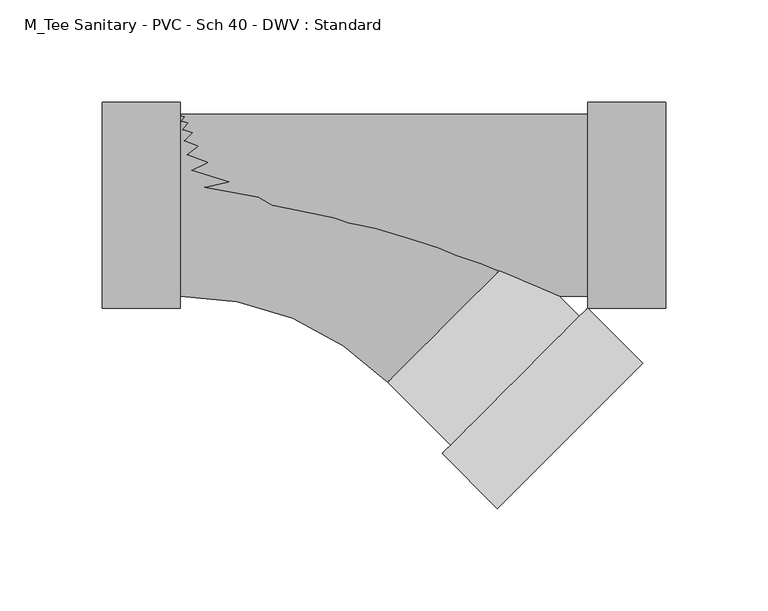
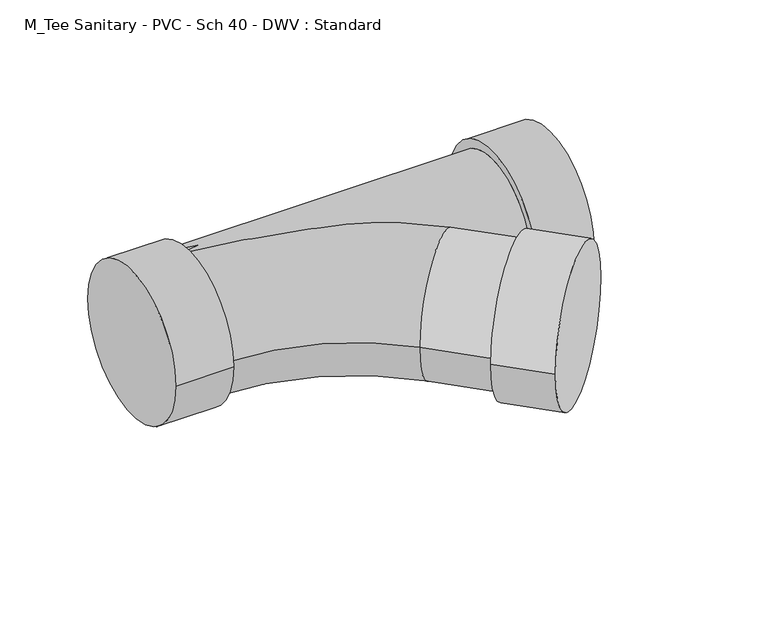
"""IFC4 building model written with IfcOpenShell, lengths in millimetres: pipe fitting geometry, M_Tee Sanitary - PVC - Sch 40 - DWV : Standard."""

import ifcopenshell
import ifcopenshell.guid

model = None  # the IFC model being written
_history = None  # IfcOwnerHistory: only IFC2X3 demands one
_inside = {}  # id of a spatial element -> (the spatial element, [elements in it])
_under = {}  # id of a project, library or spatial element -> (it, [spatial elements below it])
_declared = {}  # id of a project -> (the project, [libraries it declares])
_typed = {}  # id of a type object -> (the type object, [elements of that type])
_made_of = {}  # id of a material, layer set ... -> (it, [elements and type objects made of it])


def new_model(schema):
    """Start an empty IFC model of exactly this schema.

    Asked for "IFC4X3", IfcOpenShell would pick the latest addendum, in which some entities
    have other attributes; the version numbers below select the first issue.
    IFC2X3 requires an IfcOwnerHistory on every rooted entity: one is made here for all.
    """
    global model, _history
    if schema == "IFC4X3":
        model = ifcopenshell.file(schema_version=(4, 3, 0, 0))
    else:
        model = ifcopenshell.file(schema=schema)
    _inside.clear()
    _under.clear()
    _declared.clear()
    _typed.clear()
    _made_of.clear()
    _history = None
    if model.schema == "IFC2X3":
        org = make("IfcOrganization", Name="unknown")
        user = make(
            "IfcPersonAndOrganization",
            ThePerson=make("IfcPerson", FamilyName="unknown"),
            TheOrganization=org,
        )
        app = make(
            "IfcApplication",
            ApplicationDeveloper=org,
            Version="unknown",
            ApplicationFullName="unknown",
            ApplicationIdentifier="unknown",
        )
        _history = make(
            "IfcOwnerHistory",
            OwningUser=user,
            OwningApplication=app,
            ChangeAction="ADDED",
            CreationDate=0,
        )
    return model


def make(cls, **values):
    """One entity of the class cls with the attributes given. An attribute that is None is left unset."""
    return model.create_entity(
        cls, **{name: value for name, value in values.items() if value is not None}
    )


def rooted(cls, **values):
    """An entity with a GlobalId (a new one), such as an element, a storey or a relation."""
    return make(cls, GlobalId=ifcopenshell.guid.new(), OwnerHistory=_history, **values)


def si_unit(unit_type, name, prefix=None):
    """IfcSIUnit, for example si_unit("LENGTHUNIT", "METRE", prefix="MILLI")."""
    return make("IfcSIUnit", UnitType=unit_type, Prefix=prefix, Name=name)


def assignment(units):
    """IfcUnitAssignment: the units of a project."""
    return None if units is None else make("IfcUnitAssignment", Units=units)


def point(xyz):
    """IfcCartesianPoint."""
    return None if xyz is None else make("IfcCartesianPoint", Coordinates=xyz)


def direction(xyz):
    """IfcDirection."""
    return None if xyz is None else make("IfcDirection", DirectionRatios=xyz)


def frame(location, z_axis=None, x_axis=None):
    """IfcAxis2Placement3D, a coordinate frame: its origin and axes. An axis left out is left unset."""
    return make(
        "IfcAxis2Placement3D",
        Location=point(location),
        Axis=direction(z_axis),
        RefDirection=direction(x_axis),
    )


def origin():
    """The frame at (0, 0, 0) with its axes left unset."""
    return frame((0.0, 0.0, 0.0))


def place(relative_to, where):
    """IfcLocalPlacement: puts the frame where relative to a parent placement (None: the world)."""
    return make(
        "IfcLocalPlacement", PlacementRelTo=relative_to, RelativePlacement=where
    )


def context(
    kind, dimensions, precision=None, world=None, true_north=None, identifier=None
):
    """IfcGeometricRepresentationContext, for example the 3D "Model" context."""
    return make(
        "IfcGeometricRepresentationContext",
        ContextIdentifier=identifier,
        ContextType=kind,
        CoordinateSpaceDimension=dimensions,
        Precision=precision,
        WorldCoordinateSystem=world,
        TrueNorth=true_north,
    )


def project(units=None, contexts=None):
    """IfcProject with its units and contexts."""
    return rooted(
        "IfcProject",
        Name="project",
        RepresentationContexts=contexts,
        UnitsInContext=assignment(units),
    )


def spatial(cls, under=None, at=None, **own):
    """A site, building, storey or space (cls), placed at a placement, below another one or the project."""
    s = rooted(cls, ObjectPlacement=at, **own)
    if under is not None:
        _under.setdefault(under.id(), (under, []))[1].append(s)
    return s


def circle_curve(where, radius):
    """IfcCircle in the frame where."""
    return make("IfcCircle", Position=where, Radius=radius)


def ellipse_curve(where, semi_axis1, semi_axis2):
    """IfcEllipse in the frame where."""
    return make(
        "IfcEllipse", Position=where, SemiAxis1=semi_axis1, SemiAxis2=semi_axis2
    )


def trimmed(basis, trim1, trim2, sense, master):
    """IfcTrimmedCurve: the piece of a basis curve between two trims."""
    return make(
        "IfcTrimmedCurve",
        BasisCurve=basis,
        Trim1=trim1,
        Trim2=trim2,
        SenseAgreement=sense,
        MasterRepresentation=master,
    )


def shape(context_of_items, identifier, shape_type, items):
    """IfcShapeRepresentation: the items that make up one representation, for example the "Body"."""
    return make(
        "IfcShapeRepresentation",
        ContextOfItems=context_of_items,
        RepresentationIdentifier=identifier,
        RepresentationType=shape_type,
        Items=items,
    )


def source(mapping_origin, context_of_items, identifier, shape_type, items):
    """IfcRepresentationMap: a shape defined once, which mapped items show again and again."""
    return make(
        "IfcRepresentationMap",
        MappingOrigin=mapping_origin,
        MappedRepresentation=shape(context_of_items, identifier, shape_type, items),
    )


def transform(
    local_origin,
    x_axis=None,
    y_axis=None,
    z_axis=None,
    scale=None,
    scale2=None,
    scale3=None,
    uniform=True,
):
    """IfcCartesianTransformationOperator3D, or its non-uniform kind. x_axis, y_axis, z_axis: its Axis1, 2, 3."""
    if uniform:
        return make(
            "IfcCartesianTransformationOperator3D",
            Axis1=direction(x_axis),
            Axis2=direction(y_axis),
            LocalOrigin=point(local_origin),
            Scale=scale,
            Axis3=direction(z_axis),
        )
    return make(
        "IfcCartesianTransformationOperator3DnonUniform",
        Axis1=direction(x_axis),
        Axis2=direction(y_axis),
        LocalOrigin=point(local_origin),
        Scale=scale,
        Axis3=direction(z_axis),
        Scale2=scale2,
        Scale3=scale3,
    )


def mapped(mapping_source, mapping_target):
    """IfcMappedItem: shows the shape of a source again, moved by a transform."""
    return make(
        "IfcMappedItem", MappingSource=mapping_source, MappingTarget=mapping_target
    )


def made_of(thing, what):
    """Note that an element or type object is made of a material, layer set ...; save() writes the relation."""
    if what is not None:
        _made_of.setdefault(what.id(), (what, []))[1].append(thing)
    return thing


def element(
    cls,
    number,
    at=None,
    inside=None,
    cuts=None,
    type_object=None,
    material=None,
    context=None,
    identifier="Body",
    shape_type=None,
    held_by="IfcProductDefinitionShape",
    body=None,
    shapes=None,
    **own,
):
    """One element of the class cls, such as IfcWall. Its Tag is "e" and its number.

    at: its placement. inside: the storey or other place that contains it. cuts: it is an
    opening in that element (IfcRelVoidsElement). A single representation is given by context,
    identifier, shape_type and body (its items); several are given by shapes. held_by: the class
    of the entity that holds the representations. save() writes the other relations.
    """
    e = rooted(cls, Tag="e%d" % number, ObjectPlacement=at, **own)
    if body is not None:
        shapes = [shape(context, identifier, shape_type, body)]
    if shapes is not None:
        e.Representation = make(held_by, Representations=shapes)
    if inside is not None:
        _inside.setdefault(inside.id(), (inside, []))[1].append(e)
    if cuts is not None:
        rooted(
            "IfcRelVoidsElement", RelatingBuildingElement=cuts, RelatedOpeningElement=e
        )
    if type_object is not None:
        _typed.setdefault(type_object.id(), (type_object, []))[1].append(e)
    return made_of(e, material)


def aggregate(whole, parts):
    """IfcRelAggregates: a whole, such as a stair, and the parts it consists of."""
    return rooted("IfcRelAggregates", RelatingObject=whole, RelatedObjects=parts)


def save(model, path):
    """Write the relations noted so far, then the file.

    IfcRelAggregates (storeys below a building ...), IfcRelContainedInSpatialStructure (elements
    in a storey), IfcRelDefinesByType, IfcRelAssociatesMaterial and IfcRelDeclares: one each for
    every whole, place, type object, material and project.
    """
    for whole, parts in _under.values():
        aggregate(whole, parts)
    for where, things in _inside.values():
        rooted(
            "IfcRelContainedInSpatialStructure",
            RelatedElements=things,
            RelatingStructure=where,
        )
    for kind, things in _typed.values():
        rooted("IfcRelDefinesByType", RelatedObjects=things, RelatingType=kind)
    for what, things in _made_of.values():
        rooted("IfcRelAssociatesMaterial", RelatedObjects=things, RelatingMaterial=what)
    for by, libraries in _declared.values():
        rooted("IfcRelDeclares", RelatingContext=by, RelatedDefinitions=libraries)
    model.write(path)


def plane_surface(at):
    """IfcPlane: the flat surface through the origin of the frame at, square to its z axis."""
    return make("IfcPlane", Position=at)


def cylinder_surface(at, radius):
    """IfcCylindricalSurface: all points at the distance radius from the z axis of the frame at."""
    return make("IfcCylindricalSurface", Position=at, Radius=radius)


def revolved_surface(curve, axis_point, axis_direction):
    """IfcSurfaceOfRevolution: the curve turned about the line through axis_point along axis_direction."""
    return make(
        "IfcSurfaceOfRevolution",
        SweptCurve=make("IfcArbitraryOpenProfileDef", ProfileType="CURVE", Curve=curve),
        AxisPosition=make("IfcAxis1Placement", Location=point(axis_point), Axis=direction(axis_direction)),
    )


def advanced_brep(points, edges, surfaces, faces):
    """IfcAdvancedBrep: a solid bounded by faces that lie on surfaces and meet in shared edges.

    An edge is (start, end): straight between two places in points (the first is 0);
    or (start, end, curve); or (start, end, curve, False) where it runs against its curve.
    A face is (place in surfaces, loops), or (place, loops, False) where it looks against
    its surface's normal. A loop lists edges by number (the first is 1), with a minus sign
    where the edge is run from its end to its start. The first loop is the outer one.
    """
    corners = [point(p) for p in points]
    vertices = [make("IfcVertexPoint", VertexGeometry=c) for c in corners]
    made = []
    for start, end, *more in edges:
        made.append(
            make(
                "IfcEdgeCurve",
                EdgeStart=vertices[start],
                EdgeEnd=vertices[end],
                EdgeGeometry=more[0] if more else make("IfcPolyline", Points=[corners[start], corners[end]]),
                SameSense=more[1] if len(more) > 1 else True,
            )
        )
    hull = []
    for where, loops, *sense in faces:
        bounds = []
        for j, loop in enumerate(loops):
            ring = [make("IfcOrientedEdge", EdgeElement=made[abs(k) - 1], Orientation=k > 0) for k in loop]
            bounds.append(
                make(
                    "IfcFaceOuterBound" if j == 0 else "IfcFaceBound",
                    Bound=make("IfcEdgeLoop", EdgeList=ring),
                    Orientation=True,
                )
            )
        hull.append(make("IfcAdvancedFace", Bounds=bounds, FaceSurface=surfaces[where], SameSense=sense[0] if sense else True))
    return make("IfcAdvancedBrep", Outer=make("IfcClosedShell", CfsFaces=hull))


def m_tee_sanitary_pvc_sch_40_dwv_standard_97cdccdc(model_context):
    return source(origin(), model_context, "Body", "AdvancedBrep", [
        advanced_brep(
        [(-77.8002, -44.45, 0.0), (-77.8002, 44.45, 0.0), (23.5821526, -86.4439454, 0.0), (86.4439454, -23.5821526, 0.0), (148.2950758, -77.2073684, 0.0), (77.2073684, -148.2950758, 0.0), (121.3543075, -50.2666, 0.0), (50.2666, -121.3543075, 0.0), (117.2413502, -54.3795573, 0.0), (54.3795573, -117.2413502, 0.0)],
        [
            (0, 1, circle_curve(frame((-77.8002, 0.0, 0.0), z_axis=(-1.0, 0.0, 0.0), x_axis=(0.0, 1.0, 0.0)), 44.45)),
            (1, 0, circle_curve(frame((-77.8002, 0.0, 0.0), z_axis=(-1.0, 0.0, 0.0), x_axis=(0.0, 1.0, 0.0)), 44.45)),
            (0, 2, circle_curve(frame((-77.8002, -187.826298, 0.0), z_axis=(0.0, 0.0, -1.0), x_axis=(0.0, 1.0, 0.0)), 143.376298)),
            (2, 3, circle_curve(frame((55.013049, -55.013049, 0.0), z_axis=(-0.7071067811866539, 0.7071067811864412, 0.0), x_axis=(0.7071067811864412, 0.7071067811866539, 0.0)), 44.45)),
            (3, 1, circle_curve(frame((-77.8002, -187.826298, 0.0), z_axis=(0.0, 0.0, 1.0), x_axis=(0.0, 1.0, 0.0)), 232.276298)),
            (3, 2, circle_curve(frame((55.013049, -55.013049, 0.0), z_axis=(-0.7071067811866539, 0.7071067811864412, 0.0), x_axis=(0.7071067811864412, 0.7071067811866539, 0.0)), 44.45)),
            (4, 5, circle_curve(frame((112.7512221, -112.7512221, 0.0), z_axis=(0.707106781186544, -0.7071067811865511, 0.0), x_axis=(-0.7071067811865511, -0.707106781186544, 0.0)), 50.2666)),
            (5, 4, circle_curve(frame((112.7512221, -112.7512221, 0.0), z_axis=(0.707106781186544, -0.7071067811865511, 0.0), x_axis=(-0.7071067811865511, -0.707106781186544, 0.0)), 50.2666)),
            (6, 7, circle_curve(frame((85.8104537, -85.8104537, 0.0), z_axis=(-0.707106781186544, 0.7071067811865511, 0.0), x_axis=(-0.7071067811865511, -0.707106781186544, 0.0)), 50.2666)),
            (7, 6, circle_curve(frame((85.8104537, -85.8104537, 0.0), z_axis=(-0.707106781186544, 0.7071067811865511, 0.0), x_axis=(-0.7071067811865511, -0.707106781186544, 0.0)), 50.2666)),
            (8, 9, circle_curve(frame((85.8104537, -85.8104537, 0.0), z_axis=(0.7071067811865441, -0.707106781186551, 0.0), x_axis=(-0.707106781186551, -0.7071067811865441, 0.0)), 44.45)),
            (9, 8, circle_curve(frame((85.8104537, -85.8104537, 0.0), z_axis=(0.7071067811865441, -0.707106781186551, 0.0), x_axis=(-0.707106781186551, -0.7071067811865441, 0.0)), 44.45)),
            (4, 6),
            (7, 5),
            (2, 9),
            (8, 3),
        ],
        [
            plane_surface(frame((-77.8002, 0.0, 0.0), z_axis=(-1.0, 0.0, 0.0), x_axis=(0.0, 0.0, 1.0))),
            revolved_surface(trimmed(ellipse_curve(frame((-77.8002, 0.0, 0.0), z_axis=(-1.0, 0.0, 0.0), x_axis=(0.0, 1.0, 0.0)), 44.45, 44.45), [point((-77.8002, -44.45, 0.0))], [point((-77.8002, 44.45, 0.0))], True, "CARTESIAN"), (-77.8002, -187.826298, 0.0), (0.0, 0.0, -1.0)),
            revolved_surface(trimmed(ellipse_curve(frame((-77.8002, 0.0, 0.0), z_axis=(-1.0, 0.0, 0.0), x_axis=(0.0, 1.0, 0.0)), 44.45, 44.45), [point((-77.8002, 44.45, 0.0))], [point((-77.8002, -44.45, 0.0))], True, "CARTESIAN"), (-77.8002, -187.826298, 0.0), (0.0, 0.0, -1.0)),
            plane_surface(frame((112.7512221, -112.7512221, 0.0), z_axis=(0.7071067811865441, -0.707106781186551, 0.0), x_axis=(0.0, 0.0, 1.0))),
            plane_surface(frame((85.8104537, -85.8104537, 0.0), z_axis=(-0.707106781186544, 0.7071067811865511, 0.0), x_axis=(0.0, 0.0, 1.0))),
            cylinder_surface(frame((112.7512221, -112.7512221, 0.0), z_axis=(0.707106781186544, -0.7071067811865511, 0.0), x_axis=(-0.7071067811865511, -0.707106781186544, 0.0)), 50.2666),
            cylinder_surface(frame((112.7512221, -112.7512221, 0.0), z_axis=(0.7071067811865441, -0.707106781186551, 0.0), x_axis=(-0.707106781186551, -0.7071067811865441, 0.0)), 44.45),
        ],
        [
            (0, [[1, 2]]),
            (1, [[-1, 3, 4, 5]]),
            (2, [[-2, -5, 6, -3]]),
            (3, [[7, 8]]),
            (4, [[9, 10], [11, 12]]),
            (5, [[-7, 13, -10, 14]]),
            (5, [[-8, -14, -9, -13]]),
            (6, [[-4, 15, -11, 16]]),
            (6, [[-6, -16, -12, -15]]),
        ],
    ),
        advanced_brep(
        [(-77.8002, -44.45, 0.0), (121.3543075, -44.45, 0.0), (121.3543075, 44.45, 0.0), (-77.8002, 44.45, 0.0), (121.3543075, -50.2666, 0.0), (121.3543075, 50.2666, 0.0), (159.4543075, -50.2666, 0.0), (159.4543075, 50.2666, 0.0), (-115.9002, -50.2666, 0.0), (-115.9002, 50.2666, 0.0), (-77.8002, -50.2666, 0.0), (-77.8002, 50.2666, 0.0)],
        [
            (0, 1),
            (1, 2, circle_curve(frame((121.3543075, 0.0, 0.0), z_axis=(-1.0, 0.0, 0.0), x_axis=(0.0, 1.0, 0.0)), 44.45)),
            (2, 3),
            (3, 0, circle_curve(frame((-77.8002, 0.0, 0.0), z_axis=(1.0, 0.0, 0.0), x_axis=(0.0, 1.0, 0.0)), 44.45)),
            (0, 3, circle_curve(frame((-77.8002, 0.0, 0.0), z_axis=(1.0, 0.0, 0.0), x_axis=(0.0, 1.0, 0.0)), 44.45)),
            (2, 1, circle_curve(frame((121.3543075, 0.0, 0.0), z_axis=(-1.0, 0.0, 0.0), x_axis=(0.0, 1.0, 0.0)), 44.45)),
            (4, 5, circle_curve(frame((121.3543075, 0.0, 0.0), z_axis=(-1.0, 0.0, 0.0), x_axis=(0.0, 1.0, 0.0)), 50.2666)),
            (5, 4, circle_curve(frame((121.3543075, 0.0, 0.0), z_axis=(-1.0, 0.0, 0.0), x_axis=(0.0, 1.0, 0.0)), 50.2666)),
            (6, 7, circle_curve(frame((159.4543075, 0.0, 0.0), z_axis=(1.0, 0.0, 0.0), x_axis=(0.0, 1.0, 0.0)), 50.2666)),
            (7, 6, circle_curve(frame((159.4543075, 0.0, 0.0), z_axis=(1.0, 0.0, 0.0), x_axis=(0.0, 1.0, 0.0)), 50.2666)),
            (4, 6),
            (7, 5),
            (8, 9, circle_curve(frame((-115.9002, 0.0, 0.0), z_axis=(-1.0, 0.0, 0.0), x_axis=(0.0, 1.0, 0.0)), 50.2666)),
            (9, 8, circle_curve(frame((-115.9002, 0.0, 0.0), z_axis=(-1.0, 0.0, 0.0), x_axis=(0.0, 1.0, 0.0)), 50.2666)),
            (10, 11, circle_curve(frame((-77.8002, 0.0, 0.0), z_axis=(1.0, 0.0, 0.0), x_axis=(0.0, 1.0, 0.0)), 50.2666)),
            (11, 10, circle_curve(frame((-77.8002, 0.0, 0.0), z_axis=(1.0, 0.0, 0.0), x_axis=(0.0, 1.0, 0.0)), 50.2666)),
            (8, 10),
            (11, 9),
        ],
        [
            cylinder_surface(frame((-77.8002, 0.0, 0.0), z_axis=(-1.0, 0.0, 0.0), x_axis=(0.0, 1.0, 0.0)), 44.45),
            plane_surface(frame((121.3543075, 0.0, 0.0), z_axis=(-1.0, 0.0, 0.0), x_axis=(0.0, 0.0, 1.0))),
            plane_surface(frame((159.4543075, 0.0, 0.0), z_axis=(1.0, 0.0, 0.0), x_axis=(0.0, 0.0, 1.0))),
            cylinder_surface(frame((121.3543075, 0.0, 0.0), z_axis=(-1.0, 0.0, 0.0), x_axis=(0.0, 1.0, 0.0)), 50.2666),
            plane_surface(frame((-115.9002, 0.0, 0.0), z_axis=(-1.0, 0.0, 0.0), x_axis=(0.0, 0.0, 1.0))),
            plane_surface(frame((-77.8002, 0.0, 0.0), z_axis=(1.0, 0.0, 0.0), x_axis=(0.0, 0.0, 1.0))),
            cylinder_surface(frame((-115.9002, 0.0, 0.0), z_axis=(-1.0, 0.0, 0.0), x_axis=(0.0, 1.0, 0.0)), 50.2666),
        ],
        [
            (0, [[1, 2, 3, 4]]),
            (0, [[-1, 5, -3, 6]]),
            (1, [[7, 8], [-2, -6]]),
            (2, [[9, 10]]),
            (3, [[-7, 11, -10, 12]]),
            (3, [[-8, -12, -9, -11]]),
            (4, [[13, 14]]),
            (5, [[15, 16], [-4, -5]]),
            (6, [[-13, 17, -16, 18]]),
            (6, [[-14, -18, -15, -17]]),
        ],
    ),
    ])


if __name__ == "__main__":
    model = new_model("IFC4")
    model_context = context("Model", 3, world=origin())
    ifc_project = project(units=[si_unit("LENGTHUNIT", "METRE", prefix="MILLI")], contexts=[model_context])
    site = spatial("IfcSite", under=ifc_project)
    building = spatial("IfcBuilding", under=site)
    placement = place(None, origin())
    m_tee_sanitary_pvc_sch_40_dwv_standard_shape = m_tee_sanitary_pvc_sch_40_dwv_standard_97cdccdc(model_context)
    element("IfcPipeFitting", 1, ObjectType="M_Tee Sanitary - PVC - Sch 40 - DWV : Standard", at=placement, inside=building, context=model_context, shape_type="MappedRepresentation", body=[
        mapped(m_tee_sanitary_pvc_sch_40_dwv_standard_shape, transform((0.0, 0.0, 0.0), x_axis=(1.0, 0.0, 0.0), y_axis=(0.0, 1.0, 0.0), z_axis=(0.0, 0.0, 1.0))),
    ])
    save(model, "model.ifc")
